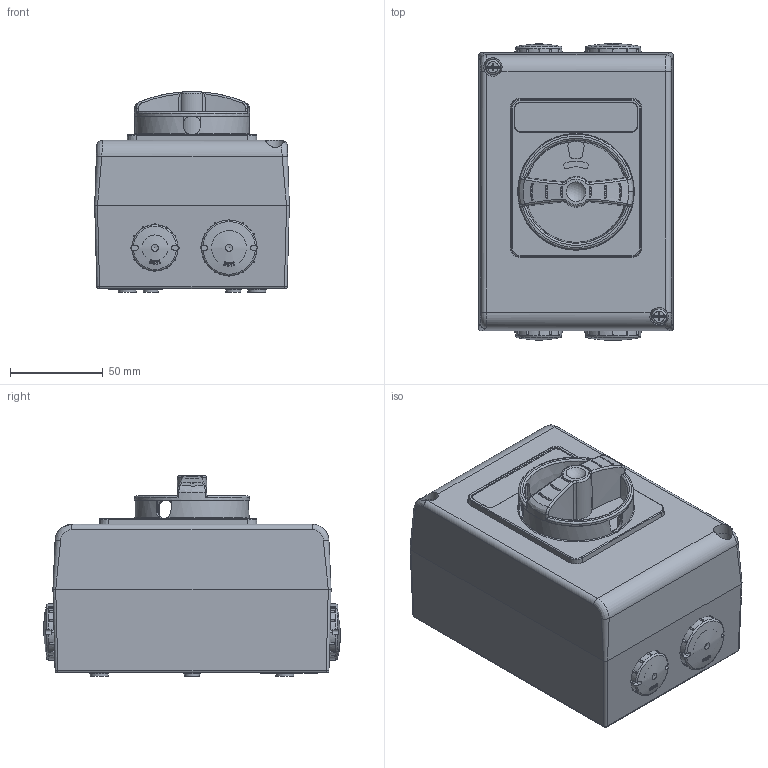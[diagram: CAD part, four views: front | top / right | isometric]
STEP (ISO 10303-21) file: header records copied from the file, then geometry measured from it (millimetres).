
FILE_DESCRIPTION(/* description */ (''),/* implementation_level */ '2;1');
FILE_NAME(/* name */ '4002754.stp',/* time_stamp */ '2020-05-05T07:46:30+02:00',/* author */ (''),/* organization */ (''),/* preprocessor_version */ 'ST-DEVELOPER v16.7',/* originating_system */ 'SIEMENS PLM Software NX 1892',/* authorisation */ '');
FILE_SCHEMA (('AUTOMOTIVE_DESIGN { 1 0 10303 214 3 1 1 1 }'));
Products named in the file (1): RGGM2A9C2F28ugng
Bounding box: 105 x 160.24 x 108.25 mm (x, y, z)
Volume: 289137.3 mm3; surface area: 202032.2 mm2
Topology: 6 solids, 10 shells, 2238 faces, 5792 edges, 3655 vertices
Faces by surface type: plane 939, cylinder 408, bspline 315, cone 232, extrusion 164, torus 116, sphere 57, revolution 7
Full cylindrical faces by diameter (mm): 3 x3, 3.3 x2, 4.3 x2, 5 x6, 5.4 x2, 6 x6, 8 x2, 9.95 x2, 10 x4, 18.16 x4, 20 x2, 23.16 x4, 25 x2
Entity records: 109980 total; most frequent: CARTESIAN_POINT 59704, ORIENTED_EDGE 10892, DIRECTION 9301, EDGE_CURVE 5446, VERTEX_POINT 3535, AXIS2_PLACEMENT_3D 3413, EDGE_LOOP 2571, VECTOR 2468
